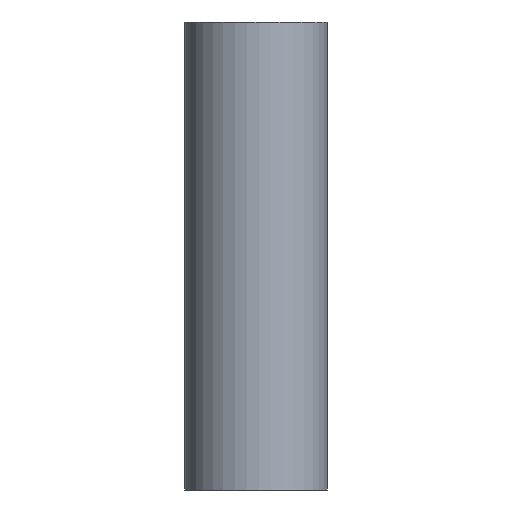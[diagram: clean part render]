
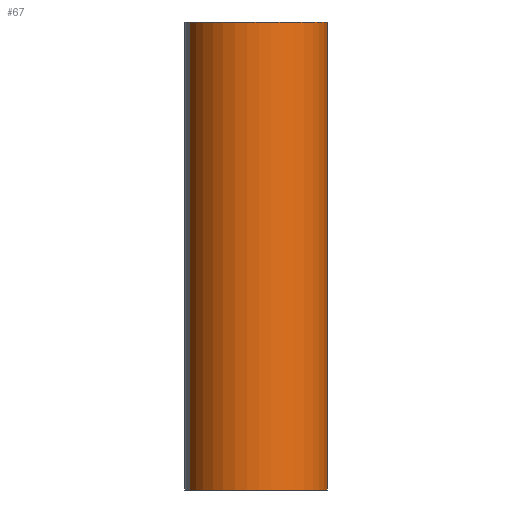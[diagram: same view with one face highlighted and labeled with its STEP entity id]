
A CAD part, front view. The second image highlights one B-rep face of the part: STEP entity #67.
In plain terms, the highlighted cylindrical face has radius 30.5 mm (diameter 61 mm), a partial arc.
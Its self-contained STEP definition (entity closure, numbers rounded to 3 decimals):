
#67=ADVANCED_FACE('',(#79),#153,.T.);
#79=FACE_OUTER_BOUND('',#93,.F.);
#93=EDGE_LOOP('',(#122,#123,#124,#125));
#122=ORIENTED_EDGE('',*,*,#185,.F.);
#123=ORIENTED_EDGE('',*,*,#189,.T.);
#124=ORIENTED_EDGE('',*,*,#186,.T.);
#125=ORIENTED_EDGE('',*,*,#188,.T.);
#153=CYLINDRICAL_SURFACE('',#253,30.5);
#160=LINE('',#357,#168);
#161=LINE('',#358,#169);
#168=VECTOR('',#283,200.);
#169=VECTOR('',#284,200.);
#185=EDGE_CURVE('',#218,#221,#160,.T.);
#186=EDGE_CURVE('',#219,#220,#161,.T.);
#188=EDGE_CURVE('',#220,#221,#208,.T.);
#189=EDGE_CURVE('',#218,#219,#209,.T.);
#208=CIRCLE('',#242,30.5);
#209=CIRCLE('',#243,30.5);
#218=VERTEX_POINT('',#334);
#219=VERTEX_POINT('',#335);
#220=VERTEX_POINT('',#336);
#221=VERTEX_POINT('',#337);
#242=AXIS2_PLACEMENT_3D('',#360,#287,#288);
#243=AXIS2_PLACEMENT_3D('',#361,#289,#290);
#253=AXIS2_PLACEMENT_3D('',#375,#313,#314);
#283=DIRECTION('',(0.,0.,-1.));
#284=DIRECTION('',(0.,0.,-1.));
#287=DIRECTION('',(0.,0.,-1.));
#288=DIRECTION('',(0.924,0.383,0.));
#289=DIRECTION('',(0.,0.,1.));
#290=DIRECTION('',(-0.924,-0.383,0.));
#313=DIRECTION('',(0.,0.,-1.));
#314=DIRECTION('',(0.924,0.383,0.));
#334=CARTESIAN_POINT('',(168.863,23.958,2.5));
#335=CARTESIAN_POINT('',(225.22,47.301,2.5));
#336=CARTESIAN_POINT('',(225.22,47.301,-197.5));
#337=CARTESIAN_POINT('',(168.863,23.958,-197.5));
#357=CARTESIAN_POINT('',(168.863,23.958,2.5));
#358=CARTESIAN_POINT('',(225.22,47.301,2.5));
#360=CARTESIAN_POINT('',(197.042,35.63,-197.5));
#361=CARTESIAN_POINT('',(197.042,35.63,2.5));
#375=CARTESIAN_POINT('',(197.042,35.63,2.5));
